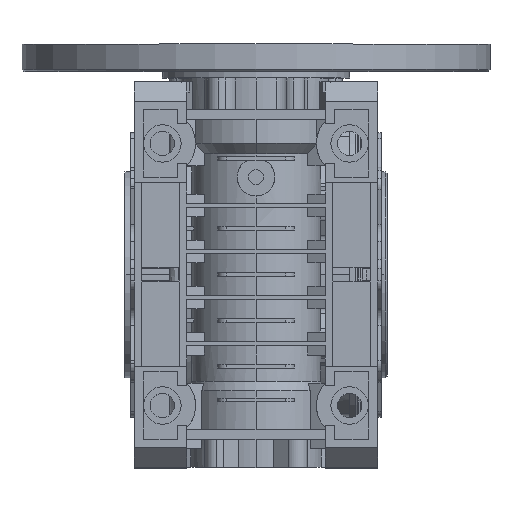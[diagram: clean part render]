
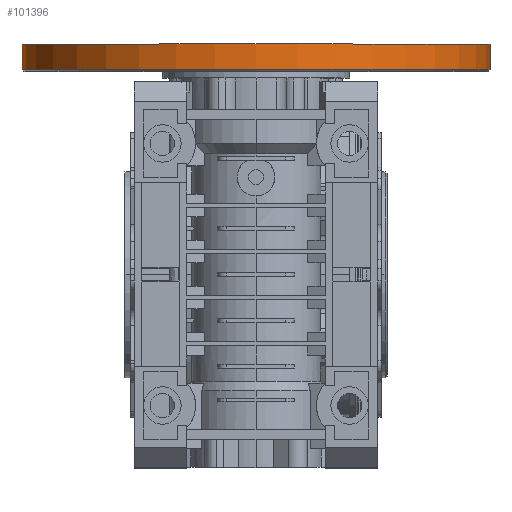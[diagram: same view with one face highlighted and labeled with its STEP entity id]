
A CAD part, top view. The second image highlights one B-rep face of the part: STEP entity #101396.
In plain terms, the highlighted cylindrical face has radius 125 mm (diameter 250 mm), a partial arc.
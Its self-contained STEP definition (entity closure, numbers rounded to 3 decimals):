
#60008 = LINE ( 'NONE', #60069, #60068 ) ;
#60015 = CARTESIAN_POINT ( 'NONE',  ( 125., 109.5, 90. ) ) ;
#60016 = DIRECTION ( 'NONE',  ( 0., 0., 1. ) ) ;
#60017 = DIRECTION ( 'NONE',  ( 0., -1., 0. ) ) ;
#60018 = CARTESIAN_POINT ( 'NONE',  ( 0., 109.5, 90. ) ) ;
#60019 = AXIS2_PLACEMENT_3D ( 'NONE', #60018, #60017, #60016 ) ;
#60020 = CIRCLE ( 'NONE', #60019, 125. ) ;
#60067 = DIRECTION ( 'NONE',  ( 0., -1., 0. ) ) ;
#60068 = VECTOR ( 'NONE', #60067, 1000. ) ;
#60069 = CARTESIAN_POINT ( 'NONE',  ( -125., 116.25, 90. ) ) ;
#60483 = CARTESIAN_POINT ( 'NONE',  ( -125., 109.5, 90. ) ) ;
#62214 = CARTESIAN_POINT ( 'NONE',  ( 125., 116.25, 90. ) ) ;
#62216 = LINE ( 'NONE', #62214, #62337 ) ;
#62335 = DIRECTION ( 'NONE',  ( 0., -1., 0. ) ) ;
#62337 = VECTOR ( 'NONE', #62335, 1000. ) ;
#66400 = DIRECTION ( 'NONE',  ( 1., 0., 0. ) ) ;
#66402 = DIRECTION ( 'NONE',  ( 0., -1., 0. ) ) ;
#66404 = CARTESIAN_POINT ( 'NONE',  ( 0., 116.25, 90. ) ) ;
#66405 = AXIS2_PLACEMENT_3D ( 'NONE', #66404, #66402, #66400 ) ;
#66406 = CYLINDRICAL_SURFACE ( 'NONE', #66405, 125. ) ;
#66413 = FACE_OUTER_BOUND ( 'NONE', #101404, .T. ) ;
#66870 = CARTESIAN_POINT ( 'NONE',  ( 125., 123., 90. ) ) ;
#66871 = DIRECTION ( 'NONE',  ( 1., 0., 0. ) ) ;
#66872 = DIRECTION ( 'NONE',  ( 0., -1., 0. ) ) ;
#66873 = CARTESIAN_POINT ( 'NONE',  ( 0., 123., 90. ) ) ;
#66874 = AXIS2_PLACEMENT_3D ( 'NONE', #66873, #66872, #66871 ) ;
#66876 = CIRCLE ( 'NONE', #66874, 125. ) ;
#67212 = CARTESIAN_POINT ( 'NONE',  ( -125., 123., 90. ) ) ;
#94228 = ORIENTED_EDGE ( 'NONE', *, *, #94231, .F. ) ;
#94231 = EDGE_CURVE ( 'NONE', #94234, #94772, #60020, .T. ) ;
#94234 = VERTEX_POINT ( 'NONE', #60015 ) ;
#94247 = EDGE_CURVE ( 'NONE', #101986, #94772, #60008, .T. ) ;
#94251 = ORIENTED_EDGE ( 'NONE', *, *, #94247, .T. ) ;
#94772 = VERTEX_POINT ( 'NONE', #60483 ) ;
#97484 = ORIENTED_EDGE ( 'NONE', *, *, #97491, .F. ) ;
#97491 = EDGE_CURVE ( 'NONE', #101788, #94234, #62216, .T. ) ;
#101396 = ADVANCED_FACE ( 'NONE', ( #66413 ), #66406, .T. ) ;
#101404 = EDGE_LOOP ( 'NONE', ( #101408, #94251, #94228, #97484 ) ) ;
#101408 = ORIENTED_EDGE ( 'NONE', *, *, #101783, .T. ) ;
#101783 = EDGE_CURVE ( 'NONE', #101788, #101986, #66876, .T. ) ;
#101788 = VERTEX_POINT ( 'NONE', #66870 ) ;
#101986 = VERTEX_POINT ( 'NONE', #67212 ) ;
